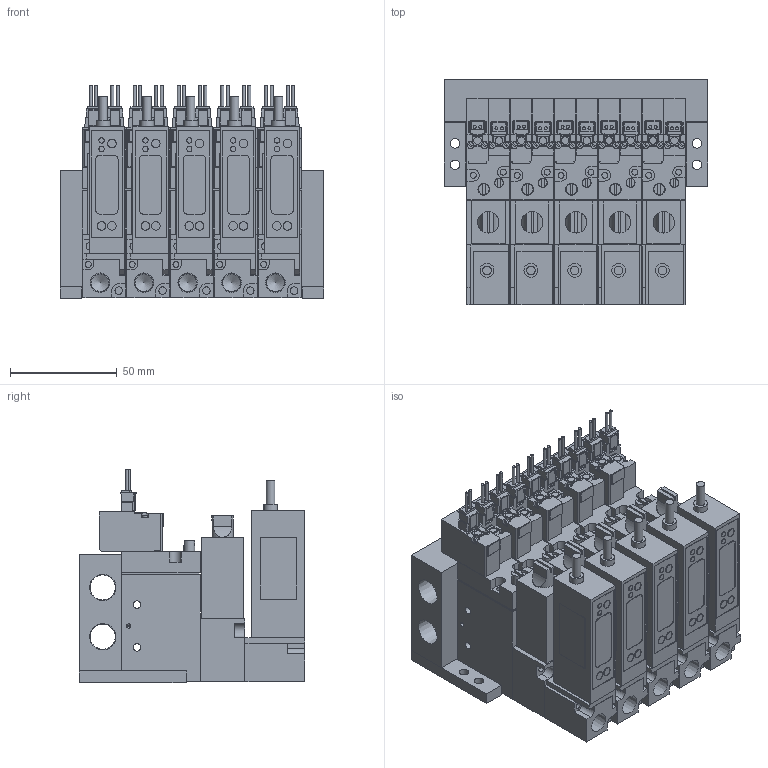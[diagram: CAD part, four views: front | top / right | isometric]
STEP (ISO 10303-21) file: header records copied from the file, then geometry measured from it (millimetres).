
FILE_DESCRIPTION(('STEP AP203'),'1');
FILE_NAME('BMPV32M2NV(R)G25AL505.stp','2025-06-17T00:50:12',(' '),(' '),'Spatial InterOp 3D',' ',' ');
FILE_SCHEMA(('CONFIG_CONTROL_DESIGN'));
Length unit declared in the file: millimetre
Products named in the file (64): BMPV32M2NV(R)G25AL505; Pressure sensor VGL; ___-3(Rc); Filter Assy; __; _____; ___ ___; MB BRACKET; MB05; ___; upper plate-A; ______; ____; VACUUM VALVE FUNCTION MPV42-A; UV280-4E
Assembly tree (63 placements, depth 2):
  BMPV32M2NV(R)G25AL505
    Pressure sensor VGL
    ___-3(Rc)
    Filter Assy
    __
    _____
    ___ ___
    Pressure sensor VGL
    ___-3(Rc)
    Filter Assy
    __
    _____
    ___ ___
    Pressure sensor VGL
    ___-3(Rc)
    Filter Assy
    __
    _____
    ___ ___
    Pressure sensor VGL
    ___-3(Rc)
    Filter Assy
    __
    _____
    ___ ___
    MB BRACKET
    MB BRACKET
    MB05
    Pressure sensor VGL
    ___-3(Rc)
    Filter Assy
    __
    _____
    ___ ___
    ___
    upper plate-A
    ______
    ____
    VACUUM VALVE FUNCTION MPV42-A
    ___
    upper plate-A
    ______
    ____
    VACUUM VALVE FUNCTION MPV42-A
    ___
    upper plate-A
    ______
    ____
    VACUUM VALVE FUNCTION MPV42-A
    ___
    upper plate-A
    ______
    ____
    VACUUM VALVE FUNCTION MPV42-A
    ___
    upper plate-A
    ______
    ____
    VACUUM VALVE FUNCTION MPV42-A
    UV280-4E
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Bounding box: 123 x 105.5 x 99.75 mm (x, y, z)
Volume: 667258.3 mm3; surface area: 217299.3 mm2
Topology: 63 solids, 63 shells, 2017 faces, 5230 edges, 3474 vertices
Faces by surface type: plane 1606, cylinder 368, cone 43
Full cylindrical faces by diameter (mm): 1.4 x20, 1.8 x10, 2 x10, 2.5 x24, 2.8 x20, 3 x20, 3.5 x54, 4 x25, 4.2 x5, 4.5 x4, 5 x5, 5.5 x5, 6.5 x11, 8.2 x5, 8.759 x5, 11.776 x2
Entity records: 62695 total; most frequent: CARTESIAN_POINT 10688, DIRECTION 9885, ORIENTED_EDGE 9686, EDGE_CURVE 4843, LINE 3923, VECTOR 3923, VERTEX_POINT 3394, AXIS2_PLACEMENT_3D 2981
